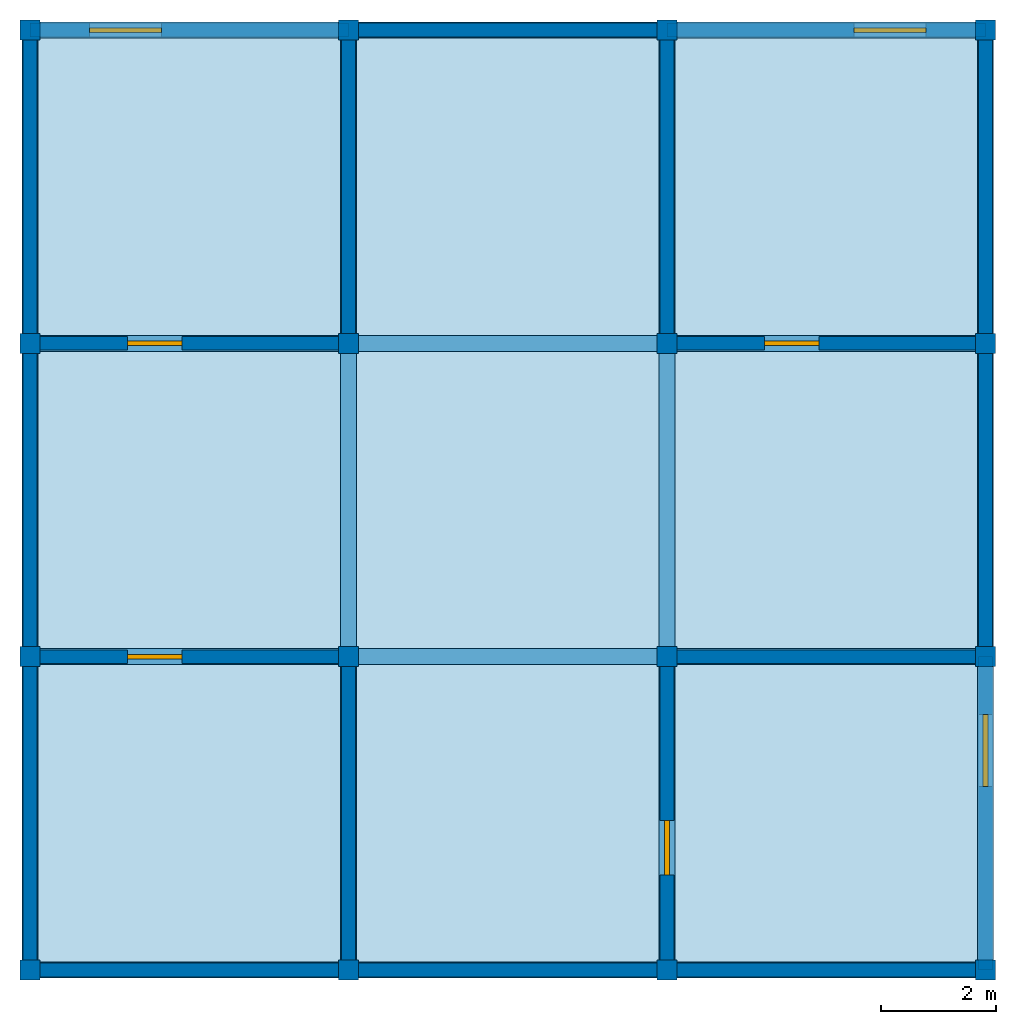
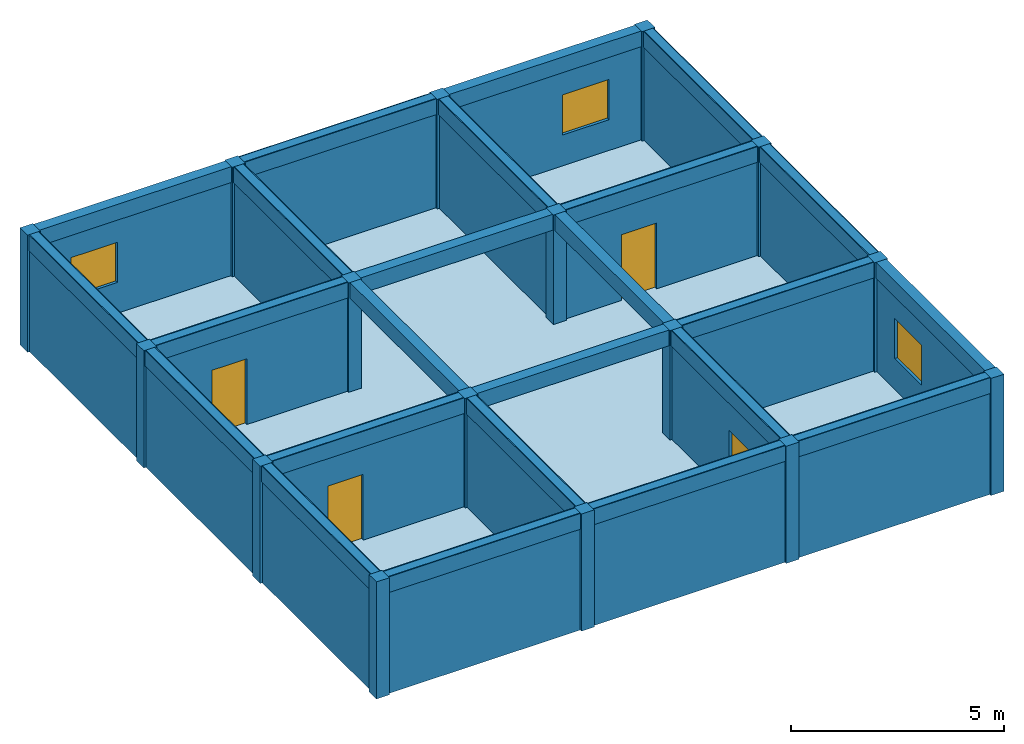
# One storey: 24 beams, 20 walls, 16 columns, 4 doors, 3 windows, 1 slab, 7 openings.
"""IFC4X3 building model written with IfcOpenShell, lengths in metres."""

from ifc_helpers import new_model, si_unit, frame, origin_with_axes, origin_2d, place, context, project, spatial, rectangle, extrude, material, element, fill, save


model = new_model("IFC4X3")

# Units and contexts
model_context = context("Model", 3, precision=1e-05, world=origin_with_axes())
ifc_project = project(units=[si_unit("LENGTHUNIT", "METRE"), si_unit("AREAUNIT", "SQUARE_METRE"), si_unit("VOLUMEUNIT", "CUBIC_METRE")], contexts=[model_context])

# Site, building, storey
site = spatial("IfcSite", under=ifc_project, Name="La Serena Parcel", CompositionType="ELEMENT")
building = spatial("IfcBuilding", under=site, Name="Atlas Building", CompositionType="ELEMENT")
storey = spatial("IfcBuildingStorey", under=building, Name="Level 11", CompositionType="ELEMENT", Elevation=33.49)

# Columns
ifc_material_1 = material(Name="Timber")
column_1_placement = place(None, frame((-8.31, -8.175, 33.49), z_axis=(0.0, 0.0, 1.0), x_axis=(1.0, 0.0, 0.0)))
element("IfcColumn", 1, at=column_1_placement, inside=storey, material=ifc_material_1, Name="Column 11.1", ObjectType="Corner Column", PredefinedType="COLUMN", context=model_context, shape_type="SweptSolid", body=[
    extrude(rectangle(XDim=0.35, YDim=0.35, at=origin_2d()), origin_with_axes(), (0.0, 0.0, 1.0), 3.349),
])
column_2_placement = place(None, frame((-8.31, -2.725, 33.49), z_axis=(0.0, 0.0, 1.0), x_axis=(1.0, 0.0, 0.0)))
element("IfcColumn", 2, at=column_2_placement, inside=storey, material=ifc_material_1, Name="Column 11.2", ObjectType="Corner Column", PredefinedType="USERDEFINED", context=model_context, shape_type="SweptSolid", body=[
    extrude(rectangle(XDim=0.35, YDim=0.35, at=origin_2d()), origin_with_axes(), (0.0, 0.0, 1.0), 3.349),
])
column_3_placement = place(None, frame((-8.31, 2.725, 33.49), z_axis=(0.0, 0.0, 1.0), x_axis=(1.0, 0.0, 0.0)))
element("IfcColumn", 3, at=column_3_placement, inside=storey, material=ifc_material_1, Name="Column 11.3", ObjectType="Structural Column", PredefinedType="PILASTER", context=model_context, shape_type="SweptSolid", body=[
    extrude(rectangle(XDim=0.35, YDim=0.35, at=origin_2d()), origin_with_axes(), (0.0, 0.0, 1.0), 3.349),
])
for number, where, z_axis, x_axis, name in (
    (4, (-8.31, 8.175, 33.49), (0.0, 0.0, 1.0), (1.0, 0.0, 0.0), "Column 11.4"),
    (5, (-2.77, -8.175, 33.49), (0.0, 0.0, 1.0), (1.0, 0.0, 0.0), "Column 11.5"),
):
    element("IfcColumn", number, at=place(None, frame(where, z_axis=z_axis, x_axis=x_axis)), inside=storey, material=ifc_material_1, Name=name, ObjectType="Core Column", PredefinedType="USERDEFINED", context=model_context, shape_type="SweptSolid", body=[
        extrude(rectangle(XDim=0.35, YDim=0.35, at=origin_2d()), origin_with_axes(), (0.0, 0.0, 1.0), 3.349),
    ])
column_4_placement = place(None, frame((-2.77, -2.725, 33.49), z_axis=(0.0, 0.0, 1.0), x_axis=(1.0, 0.0, 0.0)))
element("IfcColumn", 6, at=column_4_placement, inside=storey, material=ifc_material_1, Name="Column 11.6", ObjectType="Corner Column", PredefinedType="USERDEFINED", context=model_context, shape_type="SweptSolid", body=[
    extrude(rectangle(XDim=0.35, YDim=0.35, at=origin_2d()), origin_with_axes(), (0.0, 0.0, 1.0), 3.349),
])
column_5_placement = place(None, frame((-2.77, 2.725, 33.49), z_axis=(0.0, 0.0, 1.0), x_axis=(1.0, 0.0, 0.0)))
element("IfcColumn", 7, at=column_5_placement, inside=storey, material=ifc_material_1, Name="Column 11.7", ObjectType="Facade Column", PredefinedType="USERDEFINED", context=model_context, shape_type="SweptSolid", body=[
    extrude(rectangle(XDim=0.35, YDim=0.35, at=origin_2d()), origin_with_axes(), (0.0, 0.0, 1.0), 3.349),
])
column_6_placement = place(None, frame((-2.77, 8.175, 33.49), z_axis=(0.0, 0.0, 1.0), x_axis=(1.0, 0.0, 0.0)))
element("IfcColumn", 8, at=column_6_placement, inside=storey, material=ifc_material_1, Name="Column 11.8", ObjectType="Corner Column", PredefinedType="PILASTER", context=model_context, shape_type="SweptSolid", body=[
    extrude(rectangle(XDim=0.35, YDim=0.35, at=origin_2d()), origin_with_axes(), (0.0, 0.0, 1.0), 3.349),
])
column_7_placement = place(None, frame((2.77, -8.175, 33.49), z_axis=(0.0, 0.0, 1.0), x_axis=(1.0, 0.0, 0.0)))
element("IfcColumn", 9, at=column_7_placement, inside=storey, material=ifc_material_1, Name="Column 11.9", ObjectType="Core Column", PredefinedType="NOTDEFINED", context=model_context, shape_type="SweptSolid", body=[
    extrude(rectangle(XDim=0.35, YDim=0.35, at=origin_2d()), origin_with_axes(), (0.0, 0.0, 1.0), 3.349),
])
column_8_placement = place(None, frame((2.77, -2.725, 33.49), z_axis=(0.0, 0.0, 1.0), x_axis=(1.0, 0.0, 0.0)))
element("IfcColumn", 10, at=column_8_placement, inside=storey, material=ifc_material_1, Name="Column 11.10", ObjectType="Structural Column", PredefinedType="USERDEFINED", context=model_context, shape_type="SweptSolid", body=[
    extrude(rectangle(XDim=0.35, YDim=0.35, at=origin_2d()), origin_with_axes(), (0.0, 0.0, 1.0), 3.349),
])
column_9_placement = place(None, frame((2.77, 2.725, 33.49), z_axis=(0.0, 0.0, 1.0), x_axis=(1.0, 0.0, 0.0)))
element("IfcColumn", 11, at=column_9_placement, inside=storey, material=ifc_material_1, Name="Column 11.11", ObjectType="Structural Column", PredefinedType="PILASTER", context=model_context, shape_type="SweptSolid", body=[
    extrude(rectangle(XDim=0.35, YDim=0.35, at=origin_2d()), origin_with_axes(), (0.0, 0.0, 1.0), 3.349),
])
column_10_placement = place(None, frame((2.77, 8.175, 33.49), z_axis=(0.0, 0.0, 1.0), x_axis=(1.0, 0.0, 0.0)))
element("IfcColumn", 12, at=column_10_placement, inside=storey, material=ifc_material_1, Name="Column 11.12", ObjectType="Corner Column", PredefinedType="COLUMN", context=model_context, shape_type="SweptSolid", body=[
    extrude(rectangle(XDim=0.35, YDim=0.35, at=origin_2d()), origin_with_axes(), (0.0, 0.0, 1.0), 3.349),
])
column_11_placement = place(None, frame((8.31, -8.175, 33.49), z_axis=(0.0, 0.0, 1.0), x_axis=(1.0, 0.0, 0.0)))
element("IfcColumn", 13, at=column_11_placement, inside=storey, material=ifc_material_1, Name="Column 11.13", ObjectType="Facade Column", PredefinedType="USERDEFINED", context=model_context, shape_type="SweptSolid", body=[
    extrude(rectangle(XDim=0.35, YDim=0.35, at=origin_2d()), origin_with_axes(), (0.0, 0.0, 1.0), 3.349),
])
column_12_placement = place(None, frame((8.31, -2.725, 33.49), z_axis=(0.0, 0.0, 1.0), x_axis=(1.0, 0.0, 0.0)))
element("IfcColumn", 14, at=column_12_placement, inside=storey, material=ifc_material_1, Name="Column 11.14", ObjectType="Structural Column", PredefinedType="NOTDEFINED", context=model_context, shape_type="SweptSolid", body=[
    extrude(rectangle(XDim=0.35, YDim=0.35, at=origin_2d()), origin_with_axes(), (0.0, 0.0, 1.0), 3.349),
])
column_13_placement = place(None, frame((8.31, 2.725, 33.49), z_axis=(0.0, 0.0, 1.0), x_axis=(1.0, 0.0, 0.0)))
element("IfcColumn", 15, at=column_13_placement, inside=storey, material=ifc_material_1, Name="Column 11.15", ObjectType="Facade Column", PredefinedType="USERDEFINED", context=model_context, shape_type="SweptSolid", body=[
    extrude(rectangle(XDim=0.35, YDim=0.35, at=origin_2d()), origin_with_axes(), (0.0, 0.0, 1.0), 3.349),
])
column_14_placement = place(None, frame((8.31, 8.175, 33.49), z_axis=(0.0, 0.0, 1.0), x_axis=(1.0, 0.0, 0.0)))
element("IfcColumn", 16, at=column_14_placement, inside=storey, material=ifc_material_1, Name="Column 11.16", ObjectType="Core Column", PredefinedType="NOTDEFINED", context=model_context, shape_type="SweptSolid", body=[
    extrude(rectangle(XDim=0.35, YDim=0.35, at=origin_2d()), origin_with_axes(), (0.0, 0.0, 1.0), 3.349),
])

# Beams
ifc_material_2 = material(Name="Concrete")
beam_1_placement = place(None, frame((-5.54, -8.175, 36.389), z_axis=(0.0, 0.0, 1.0), x_axis=(1.0, 0.0, 0.0)))
element("IfcBeam", 17, at=beam_1_placement, inside=storey, material=ifc_material_2, Name="Beam 11.1", ObjectType="Transfer Beam", PredefinedType="JOIST", context=model_context, shape_type="SweptSolid", body=[
    extrude(rectangle(XDim=5.54, YDim=0.28, at=origin_2d()), origin_with_axes(), (0.0, 0.0, 1.0), 0.45),
])
beam_2_placement = place(None, frame((0.0, -8.175, 36.389), z_axis=(0.0, 0.0, 1.0), x_axis=(1.0, 0.0, 0.0)))
element("IfcBeam", 18, at=beam_2_placement, inside=storey, material=ifc_material_2, Name="Beam 11.2", ObjectType="Primary Beam", PredefinedType="JOIST", context=model_context, shape_type="SweptSolid", body=[
    extrude(rectangle(XDim=5.54, YDim=0.28, at=origin_2d()), origin_with_axes(), (0.0, 0.0, 1.0), 0.45),
])
beam_3_placement = place(None, frame((5.54, -8.175, 36.389), z_axis=(0.0, 0.0, 1.0), x_axis=(1.0, 0.0, 0.0)))
element("IfcBeam", 19, at=beam_3_placement, inside=storey, material=ifc_material_2, Name="Beam 11.3", ObjectType="Secondary Beam", PredefinedType="LINTEL", context=model_context, shape_type="SweptSolid", body=[
    extrude(rectangle(XDim=5.54, YDim=0.28, at=origin_2d()), origin_with_axes(), (0.0, 0.0, 1.0), 0.45),
])
beam_4_placement = place(None, frame((-5.54, -2.725, 36.389), z_axis=(0.0, 0.0, 1.0), x_axis=(1.0, 0.0, 0.0)))
element("IfcBeam", 20, at=beam_4_placement, inside=storey, material=ifc_material_2, Name="Beam 11.4", ObjectType="Primary Beam", PredefinedType="NOTDEFINED", context=model_context, shape_type="SweptSolid", body=[
    extrude(rectangle(XDim=5.54, YDim=0.28, at=origin_2d()), origin_with_axes(), (0.0, 0.0, 1.0), 0.45),
])
beam_5_placement = place(None, frame((0.0, -2.725, 36.389), z_axis=(0.0, 0.0, 1.0), x_axis=(1.0, 0.0, 0.0)))
element("IfcBeam", 21, at=beam_5_placement, inside=storey, material=ifc_material_2, Name="Beam 11.5", ObjectType="Secondary Beam", PredefinedType="USERDEFINED", context=model_context, shape_type="SweptSolid", body=[
    extrude(rectangle(XDim=5.54, YDim=0.28, at=origin_2d()), origin_with_axes(), (0.0, 0.0, 1.0), 0.45),
])
beam_6_placement = place(None, frame((5.54, -2.725, 36.389), z_axis=(0.0, 0.0, 1.0), x_axis=(1.0, 0.0, 0.0)))
element("IfcBeam", 22, at=beam_6_placement, inside=storey, material=ifc_material_2, Name="Beam 11.6", ObjectType="Ridge Beam", PredefinedType="T_BEAM", context=model_context, shape_type="SweptSolid", body=[
    extrude(rectangle(XDim=5.54, YDim=0.28, at=origin_2d()), origin_with_axes(), (0.0, 0.0, 1.0), 0.45),
])
beam_7_placement = place(None, frame((-5.54, 2.725, 36.389), z_axis=(0.0, 0.0, 1.0), x_axis=(1.0, 0.0, 0.0)))
element("IfcBeam", 23, at=beam_7_placement, inside=storey, material=ifc_material_2, Name="Beam 11.7", ObjectType="Secondary Beam", PredefinedType="NOTDEFINED", context=model_context, shape_type="SweptSolid", body=[
    extrude(rectangle(XDim=5.54, YDim=0.28, at=origin_2d()), origin_with_axes(), (0.0, 0.0, 1.0), 0.45),
])
for number, where, z_axis, x_axis, name in (
    (24, (0.0, 2.725, 36.389), (0.0, 0.0, 1.0), (1.0, 0.0, 0.0), "Beam 11.8"),
    (25, (5.54, 2.725, 36.389), (0.0, 0.0, 1.0), (1.0, 0.0, 0.0), "Beam 11.9"),
):
    element("IfcBeam", number, at=place(None, frame(where, z_axis=z_axis, x_axis=x_axis)), inside=storey, material=ifc_material_2, Name=name, ObjectType="Ridge Beam", PredefinedType="HOLLOWCORE", context=model_context, shape_type="SweptSolid", body=[
        extrude(rectangle(XDim=5.54, YDim=0.28, at=origin_2d()), origin_with_axes(), (0.0, 0.0, 1.0), 0.45),
    ])
beam_8_placement = place(None, frame((-5.54, 8.175, 36.389), z_axis=(0.0, 0.0, 1.0), x_axis=(1.0, 0.0, 0.0)))
element("IfcBeam", 26, at=beam_8_placement, inside=storey, material=ifc_material_2, Name="Beam 11.10", ObjectType="Primary Beam", PredefinedType="BEAM", context=model_context, shape_type="SweptSolid", body=[
    extrude(rectangle(XDim=5.54, YDim=0.28, at=origin_2d()), origin_with_axes(), (0.0, 0.0, 1.0), 0.45),
])
beam_9_placement = place(None, frame((0.0, 8.175, 36.389), z_axis=(0.0, 0.0, 1.0), x_axis=(1.0, 0.0, 0.0)))
element("IfcBeam", 27, at=beam_9_placement, inside=storey, material=ifc_material_2, Name="Beam 11.11", ObjectType="Transfer Beam", PredefinedType="LINTEL", context=model_context, shape_type="SweptSolid", body=[
    extrude(rectangle(XDim=5.54, YDim=0.28, at=origin_2d()), origin_with_axes(), (0.0, 0.0, 1.0), 0.45),
])
beam_10_placement = place(None, frame((5.54, 8.175, 36.389), z_axis=(0.0, 0.0, 1.0), x_axis=(1.0, 0.0, 0.0)))
element("IfcBeam", 28, at=beam_10_placement, inside=storey, material=ifc_material_2, Name="Beam 11.12", ObjectType="Primary Beam", PredefinedType="BEAM", context=model_context, shape_type="SweptSolid", body=[
    extrude(rectangle(XDim=5.54, YDim=0.28, at=origin_2d()), origin_with_axes(), (0.0, 0.0, 1.0), 0.45),
])
beam_11_placement = place(None, frame((-8.31, -5.45, 36.389), z_axis=(0.0, 0.0, 1.0), x_axis=(0.0, 1.0, 0.0)))
element("IfcBeam", 29, at=beam_11_placement, inside=storey, material=ifc_material_2, Name="Beam 11.13", ObjectType="Secondary Beam", PredefinedType="NOTDEFINED", context=model_context, shape_type="SweptSolid", body=[
    extrude(rectangle(XDim=5.45, YDim=0.28, at=origin_2d()), origin_with_axes(), (0.0, 0.0, 1.0), 0.45),
])
beam_12_placement = place(None, frame((-8.31, 0.0, 36.389), z_axis=(0.0, 0.0, 1.0), x_axis=(0.0, 1.0, 0.0)))
element("IfcBeam", 30, at=beam_12_placement, inside=storey, material=ifc_material_2, Name="Beam 11.14", ObjectType="Primary Beam", PredefinedType="HOLLOWCORE", context=model_context, shape_type="SweptSolid", body=[
    extrude(rectangle(XDim=5.45, YDim=0.28, at=origin_2d()), origin_with_axes(), (0.0, 0.0, 1.0), 0.45),
])
beam_13_placement = place(None, frame((-8.31, 5.45, 36.389), z_axis=(0.0, 0.0, 1.0), x_axis=(0.0, 1.0, 0.0)))
element("IfcBeam", 31, at=beam_13_placement, inside=storey, material=ifc_material_2, Name="Beam 11.15", ObjectType="Secondary Beam", PredefinedType="JOIST", context=model_context, shape_type="SweptSolid", body=[
    extrude(rectangle(XDim=5.45, YDim=0.28, at=origin_2d()), origin_with_axes(), (0.0, 0.0, 1.0), 0.45),
])
beam_14_placement = place(None, frame((-2.77, -5.45, 36.389), z_axis=(0.0, 0.0, 1.0), x_axis=(0.0, 1.0, 0.0)))
element("IfcBeam", 32, at=beam_14_placement, inside=storey, material=ifc_material_2, Name="Beam 11.16", ObjectType="Ridge Beam", PredefinedType="USERDEFINED", context=model_context, shape_type="SweptSolid", body=[
    extrude(rectangle(XDim=5.45, YDim=0.28, at=origin_2d()), origin_with_axes(), (0.0, 0.0, 1.0), 0.45),
])
beam_15_placement = place(None, frame((-2.77, 0.0, 36.389), z_axis=(0.0, 0.0, 1.0), x_axis=(0.0, 1.0, 0.0)))
element("IfcBeam", 33, at=beam_15_placement, inside=storey, material=ifc_material_2, Name="Beam 11.17", ObjectType="Rafter Beam", PredefinedType="SPANDREL", context=model_context, shape_type="SweptSolid", body=[
    extrude(rectangle(XDim=5.45, YDim=0.28, at=origin_2d()), origin_with_axes(), (0.0, 0.0, 1.0), 0.45),
])
beam_16_placement = place(None, frame((-2.77, 5.45, 36.389), z_axis=(0.0, 0.0, 1.0), x_axis=(0.0, 1.0, 0.0)))
element("IfcBeam", 34, at=beam_16_placement, inside=storey, material=ifc_material_2, Name="Beam 11.18", ObjectType="Transfer Beam", PredefinedType="T_BEAM", context=model_context, shape_type="SweptSolid", body=[
    extrude(rectangle(XDim=5.45, YDim=0.28, at=origin_2d()), origin_with_axes(), (0.0, 0.0, 1.0), 0.45),
])
beam_17_placement = place(None, frame((2.77, -5.45, 36.389), z_axis=(0.0, 0.0, 1.0), x_axis=(0.0, 1.0, 0.0)))
element("IfcBeam", 35, at=beam_17_placement, inside=storey, material=ifc_material_2, Name="Beam 11.19", ObjectType="Primary Beam", PredefinedType="SPANDREL", context=model_context, shape_type="SweptSolid", body=[
    extrude(rectangle(XDim=5.45, YDim=0.28, at=origin_2d()), origin_with_axes(), (0.0, 0.0, 1.0), 0.45),
])
beam_18_placement = place(None, frame((2.77, 0.0, 36.389), z_axis=(0.0, 0.0, 1.0), x_axis=(0.0, 1.0, 0.0)))
element("IfcBeam", 36, at=beam_18_placement, inside=storey, material=ifc_material_2, Name="Beam 11.20", ObjectType="Ridge Beam", PredefinedType="NOTDEFINED", context=model_context, shape_type="SweptSolid", body=[
    extrude(rectangle(XDim=5.45, YDim=0.28, at=origin_2d()), origin_with_axes(), (0.0, 0.0, 1.0), 0.45),
])
beam_19_placement = place(None, frame((2.77, 5.45, 36.389), z_axis=(0.0, 0.0, 1.0), x_axis=(0.0, 1.0, 0.0)))
element("IfcBeam", 37, at=beam_19_placement, inside=storey, material=ifc_material_2, Name="Beam 11.21", ObjectType="Transfer Beam", PredefinedType="T_BEAM", context=model_context, shape_type="SweptSolid", body=[
    extrude(rectangle(XDim=5.45, YDim=0.28, at=origin_2d()), origin_with_axes(), (0.0, 0.0, 1.0), 0.45),
])
beam_20_placement = place(None, frame((8.31, -5.45, 36.389), z_axis=(0.0, 0.0, 1.0), x_axis=(0.0, 1.0, 0.0)))
element("IfcBeam", 38, at=beam_20_placement, inside=storey, material=ifc_material_2, Name="Beam 11.22", ObjectType="Rafter Beam", PredefinedType="HOLLOWCORE", context=model_context, shape_type="SweptSolid", body=[
    extrude(rectangle(XDim=5.45, YDim=0.28, at=origin_2d()), origin_with_axes(), (0.0, 0.0, 1.0), 0.45),
])
beam_21_placement = place(None, frame((8.31, 0.0, 36.389), z_axis=(0.0, 0.0, 1.0), x_axis=(0.0, 1.0, 0.0)))
element("IfcBeam", 39, at=beam_21_placement, inside=storey, material=ifc_material_2, Name="Beam 11.23", ObjectType="Primary Beam", PredefinedType="LINTEL", context=model_context, shape_type="SweptSolid", body=[
    extrude(rectangle(XDim=5.45, YDim=0.28, at=origin_2d()), origin_with_axes(), (0.0, 0.0, 1.0), 0.45),
])
beam_22_placement = place(None, frame((8.31, 5.45, 36.389), z_axis=(0.0, 0.0, 1.0), x_axis=(0.0, 1.0, 0.0)))
element("IfcBeam", 40, at=beam_22_placement, inside=storey, material=ifc_material_2, Name="Beam 11.24", ObjectType="Rafter Beam", PredefinedType="USERDEFINED", context=model_context, shape_type="SweptSolid", body=[
    extrude(rectangle(XDim=5.45, YDim=0.28, at=origin_2d()), origin_with_axes(), (0.0, 0.0, 1.0), 0.45),
])

# Slab
slab_placement = place(None, frame((0.0, 0.0, 33.49), z_axis=(0.0, 0.0, 1.0), x_axis=(1.0, 0.0, 0.0)))
element("IfcSlab", 41, at=slab_placement, inside=storey, material=ifc_material_2, Name="Slab 11", ObjectType="Floor Slab", PredefinedType="FLOOR", context=model_context, shape_type="SweptSolid", body=[
    extrude(rectangle(XDim=16.62, YDim=16.35, at=origin_2d()), origin_with_axes(), (0.0, 0.0, 1.0), 0.22),
])

# Wall, opening, door
wall_1_placement = place(None, frame((-5.54, -2.725, 33.49), z_axis=(0.0, 0.0, 1.0), x_axis=(1.0, 0.0, 0.0)))
wall_1 = element("IfcWall", 42, at=wall_1_placement, inside=storey, material=ifc_material_2, Name="Wall 11.1", ObjectType="Corridor Partition", PredefinedType="STANDARD", context=model_context, shape_type="SweptSolid", body=[
    extrude(rectangle(XDim=5.54, YDim=0.237348, at=origin_2d()), origin_with_axes(), (0.0, 0.0, 1.0), 3.349),
])
opening_1_placement = place(None, frame((-6.14, -2.725, 33.49), z_axis=(0.0, 0.0, 1.0), x_axis=(1.0, 0.0, 0.0)))
opening_1 = element("IfcOpeningElement", 43, at=opening_1_placement, cuts=wall_1, Name="Door opening 11.1", ObjectType="Door Opening", PredefinedType="OPENING", context=model_context, shape_type="SweptSolid", body=[
    extrude(rectangle(XDim=0.95, YDim=0.317348, at=origin_2d()), origin_with_axes(), (0.0, 0.0, 1.0), 2.1),
])
door_1_placement = place(None, frame((-6.14, -2.725, 33.49), z_axis=(0.0, 0.0, 1.0), x_axis=(1.0, 0.0, 0.0)))
door_1 = element("IfcDoor", 44, at=door_1_placement, inside=storey, Name="Door 11.1", ObjectType="Fire Door", OverallHeight=2.1, OverallWidth=0.95, context=model_context, shape_type="SweptSolid", body=[
    extrude(rectangle(XDim=0.95, YDim=0.08, at=origin_2d()), origin_with_axes(), (0.0, 0.0, 1.0), 2.1),
])
fill(opening_1, door_1)

# Walls
ifc_material_3 = material(Name="Gypsum")
wall_2_placement = place(None, frame((-2.77, -5.45, 33.49), z_axis=(0.0, 0.0, 1.0), x_axis=(0.0, 1.0, 0.0)))
element("IfcWall", 45, at=wall_2_placement, inside=storey, material=ifc_material_3, Name="Wall 11.2", ObjectType="Corridor Partition", PredefinedType="MOVABLE", context=model_context, shape_type="SweptSolid", body=[
    extrude(rectangle(XDim=5.45, YDim=0.237348, at=origin_2d()), origin_with_axes(), (0.0, 0.0, 1.0), 3.349),
])
ifc_material_4 = material(Name="CLT")
wall_3_placement = place(None, frame((-5.54, -8.175, 33.49), z_axis=(0.0, 0.0, 1.0), x_axis=(1.0, 0.0, 0.0)))
element("IfcWall", 46, at=wall_3_placement, inside=storey, material=ifc_material_4, Name="Wall 11.3", ObjectType="Exterior Wall", PredefinedType="ELEMENTEDWALL", context=model_context, shape_type="SweptSolid", body=[
    extrude(rectangle(XDim=5.54, YDim=0.237348, at=origin_2d()), origin_with_axes(), (0.0, 0.0, 1.0), 3.349),
])
wall_4_placement = place(None, frame((-8.31, -5.45, 33.49), z_axis=(0.0, 0.0, 1.0), x_axis=(0.0, 1.0, 0.0)))
element("IfcWall", 47, at=wall_4_placement, inside=storey, material=ifc_material_3, Name="Wall 11.4", ObjectType="Exterior Wall", PredefinedType="USERDEFINED", context=model_context, shape_type="SweptSolid", body=[
    extrude(rectangle(XDim=5.45, YDim=0.237348, at=origin_2d()), origin_with_axes(), (0.0, 0.0, 1.0), 3.349),
])

# Wall, opening, door
wall_5_placement = place(None, frame((2.77, -5.45, 33.49), z_axis=(0.0, 0.0, 1.0), x_axis=(0.0, 1.0, 0.0)))
wall_5 = element("IfcWall", 48, at=wall_5_placement, inside=storey, material=ifc_material_4, Name="Wall 11.5", ObjectType="Corridor Partition", PredefinedType="PLUMBINGWALL", context=model_context, shape_type="SweptSolid", body=[
    extrude(rectangle(XDim=5.45, YDim=0.237348, at=origin_2d()), origin_with_axes(), (0.0, 0.0, 1.0), 3.349),
])
opening_2_placement = place(None, frame((2.77, -6.05, 33.49), z_axis=(0.0, 0.0, 1.0), x_axis=(0.0, 1.0, 0.0)))
opening_2 = element("IfcOpeningElement", 49, at=opening_2_placement, cuts=wall_5, Name="Door opening 11.2", ObjectType="Door Opening", PredefinedType="OPENING", context=model_context, shape_type="SweptSolid", body=[
    extrude(rectangle(XDim=0.95, YDim=0.317348, at=origin_2d()), origin_with_axes(), (0.0, 0.0, 1.0), 2.1),
])
door_2_placement = place(None, frame((2.77, -6.05, 33.49), z_axis=(0.0, 0.0, 1.0), x_axis=(0.0, 1.0, 0.0)))
door_2 = element("IfcDoor", 50, at=door_2_placement, inside=storey, Name="Door 11.2", ObjectType="Entry Door", OverallHeight=2.1, OverallWidth=0.95, context=model_context, shape_type="SweptSolid", body=[
    extrude(rectangle(XDim=0.95, YDim=0.08, at=origin_2d()), origin_with_axes(), (0.0, 0.0, 1.0), 2.1),
])
fill(opening_2, door_2)

# Walls
wall_6_placement = place(None, frame((0.0, -8.175, 33.49), z_axis=(0.0, 0.0, 1.0), x_axis=(1.0, 0.0, 0.0)))
element("IfcWall", 51, at=wall_6_placement, inside=storey, material=ifc_material_3, Name="Wall 11.6", ObjectType="Exterior Wall", PredefinedType="PARAPET", context=model_context, shape_type="SweptSolid", body=[
    extrude(rectangle(XDim=5.54, YDim=0.237348, at=origin_2d()), origin_with_axes(), (0.0, 0.0, 1.0), 3.349),
])
ifc_material_5 = material(Name="Brick")
wall_7_placement = place(None, frame((5.54, -2.725, 33.49), z_axis=(0.0, 0.0, 1.0), x_axis=(1.0, 0.0, 0.0)))
element("IfcWall", 52, at=wall_7_placement, inside=storey, material=ifc_material_5, Name="Wall 11.7", ObjectType="Corridor Partition", PredefinedType="STANDARD", context=model_context, shape_type="SweptSolid", body=[
    extrude(rectangle(XDim=5.54, YDim=0.237348, at=origin_2d()), origin_with_axes(), (0.0, 0.0, 1.0), 3.349),
])

# Wall, opening, window
wall_8_placement = place(None, frame((8.31, -5.45, 33.49), z_axis=(0.0, 0.0, 1.0), x_axis=(0.0, 1.0, 0.0)))
wall_8 = element("IfcWall", 53, at=wall_8_placement, inside=storey, material=ifc_material_2, Name="Wall 11.8", ObjectType="Exterior Wall", PredefinedType="ELEMENTEDWALL", context=model_context, shape_type="SweptSolid", body=[
    extrude(rectangle(XDim=5.45, YDim=0.237348, at=origin_2d()), origin_with_axes(), (0.0, 0.0, 1.0), 3.349),
])
opening_3_placement = place(None, frame((8.31, -4.36, 34.59), z_axis=(0.0, 0.0, 1.0), x_axis=(0.0, 1.0, 0.0)))
opening_3 = element("IfcOpeningElement", 54, at=opening_3_placement, cuts=wall_8, Name="Window opening 11.3", ObjectType="Window Opening", PredefinedType="OPENING", context=model_context, shape_type="SweptSolid", body=[
    extrude(rectangle(XDim=1.25, YDim=0.317348, at=origin_2d()), origin_with_axes(), (0.0, 0.0, 1.0), 1.15),
])
window_1_placement = place(None, frame((8.31, -4.36, 34.59), z_axis=(0.0, 0.0, 1.0), x_axis=(0.0, 1.0, 0.0)))
window_1 = element("IfcWindow", 55, at=window_1_placement, inside=storey, Name="Window 11.3", ObjectType="Operable Window", OverallHeight=1.15, OverallWidth=1.25, context=model_context, shape_type="SweptSolid", body=[
    extrude(rectangle(XDim=1.25, YDim=0.08, at=origin_2d()), origin_with_axes(), (0.0, 0.0, 1.0), 1.15),
])
fill(opening_3, window_1)

# Wall
wall_9_placement = place(None, frame((5.54, -8.175, 33.49), z_axis=(0.0, 0.0, 1.0), x_axis=(1.0, 0.0, 0.0)))
element("IfcWall", 56, at=wall_9_placement, inside=storey, material=ifc_material_5, Name="Wall 11.9", ObjectType="Exterior Wall", PredefinedType="MOVABLE", context=model_context, shape_type="SweptSolid", body=[
    extrude(rectangle(XDim=5.54, YDim=0.237348, at=origin_2d()), origin_with_axes(), (0.0, 0.0, 1.0), 3.349),
])

# Wall, opening, door
wall_10_placement = place(None, frame((-5.54, 2.725, 33.49), z_axis=(0.0, 0.0, 1.0), x_axis=(1.0, 0.0, 0.0)))
wall_10 = element("IfcWall", 57, at=wall_10_placement, inside=storey, material=ifc_material_4, Name="Wall 11.10", ObjectType="Corridor Partition", PredefinedType="PLUMBINGWALL", context=model_context, shape_type="SweptSolid", body=[
    extrude(rectangle(XDim=5.54, YDim=0.237348, at=origin_2d()), origin_with_axes(), (0.0, 0.0, 1.0), 3.349),
])
opening_4_placement = place(None, frame((-6.14, 2.725, 33.49), z_axis=(0.0, 0.0, 1.0), x_axis=(1.0, 0.0, 0.0)))
opening_4 = element("IfcOpeningElement", 58, at=opening_4_placement, cuts=wall_10, Name="Door opening 11.4", ObjectType="Door Opening", PredefinedType="OPENING", context=model_context, shape_type="SweptSolid", body=[
    extrude(rectangle(XDim=0.95, YDim=0.317348, at=origin_2d()), origin_with_axes(), (0.0, 0.0, 1.0), 2.1),
])
door_3_placement = place(None, frame((-6.14, 2.725, 33.49), z_axis=(0.0, 0.0, 1.0), x_axis=(1.0, 0.0, 0.0)))
door_3 = element("IfcDoor", 59, at=door_3_placement, inside=storey, Name="Door 11.4", ObjectType="Fire Door", OverallHeight=2.1, OverallWidth=0.95, context=model_context, shape_type="SweptSolid", body=[
    extrude(rectangle(XDim=0.95, YDim=0.08, at=origin_2d()), origin_with_axes(), (0.0, 0.0, 1.0), 2.1),
])
fill(opening_4, door_3)

# Wall
wall_11_placement = place(None, frame((-8.31, 0.0, 33.49), z_axis=(0.0, 0.0, 1.0), x_axis=(0.0, 1.0, 0.0)))
element("IfcWall", 60, at=wall_11_placement, inside=storey, material=ifc_material_3, Name="Wall 11.11", ObjectType="Exterior Wall", PredefinedType="SOLIDWALL", context=model_context, shape_type="SweptSolid", body=[
    extrude(rectangle(XDim=5.45, YDim=0.237348, at=origin_2d()), origin_with_axes(), (0.0, 0.0, 1.0), 3.349),
])

# Wall, opening, door
wall_12_placement = place(None, frame((5.54, 2.725, 33.49), z_axis=(0.0, 0.0, 1.0), x_axis=(1.0, 0.0, 0.0)))
wall_12 = element("IfcWall", 61, at=wall_12_placement, inside=storey, material=ifc_material_5, Name="Wall 11.12", ObjectType="Corridor Partition", PredefinedType="STANDARD", context=model_context, shape_type="SweptSolid", body=[
    extrude(rectangle(XDim=5.54, YDim=0.237348, at=origin_2d()), origin_with_axes(), (0.0, 0.0, 1.0), 3.349),
])
opening_5_placement = place(None, frame((4.94, 2.725, 33.49), z_axis=(0.0, 0.0, 1.0), x_axis=(1.0, 0.0, 0.0)))
opening_5 = element("IfcOpeningElement", 62, at=opening_5_placement, cuts=wall_12, Name="Door opening 11.6", ObjectType="Door Opening", PredefinedType="OPENING", context=model_context, shape_type="SweptSolid", body=[
    extrude(rectangle(XDim=0.95, YDim=0.317348, at=origin_2d()), origin_with_axes(), (0.0, 0.0, 1.0), 2.1),
])
door_4_placement = place(None, frame((4.94, 2.725, 33.49), z_axis=(0.0, 0.0, 1.0), x_axis=(1.0, 0.0, 0.0)))
door_4 = element("IfcDoor", 63, at=door_4_placement, inside=storey, Name="Door 11.6", ObjectType="Entry Door", OverallHeight=2.1, OverallWidth=0.95, context=model_context, shape_type="SweptSolid", body=[
    extrude(rectangle(XDim=0.95, YDim=0.08, at=origin_2d()), origin_with_axes(), (0.0, 0.0, 1.0), 2.1),
])
fill(opening_5, door_4)

# Wall
wall_13_placement = place(None, frame((8.31, 0.0, 33.49), z_axis=(0.0, 0.0, 1.0), x_axis=(0.0, 1.0, 0.0)))
element("IfcWall", 64, at=wall_13_placement, inside=storey, material=ifc_material_5, Name="Wall 11.13", ObjectType="Exterior Wall", PredefinedType="STANDARD", context=model_context, shape_type="SweptSolid", body=[
    extrude(rectangle(XDim=5.45, YDim=0.237348, at=origin_2d()), origin_with_axes(), (0.0, 0.0, 1.0), 3.349),
])

# Wall, opening, window
wall_14_placement = place(None, frame((-5.54, 8.175, 33.49), z_axis=(0.0, 0.0, 1.0), x_axis=(1.0, 0.0, 0.0)))
wall_14 = element("IfcWall", 65, at=wall_14_placement, inside=storey, material=ifc_material_4, Name="Wall 11.14", ObjectType="Exterior Wall", PredefinedType="ELEMENTEDWALL", context=model_context, shape_type="SweptSolid", body=[
    extrude(rectangle(XDim=5.54, YDim=0.237348, at=origin_2d()), origin_with_axes(), (0.0, 0.0, 1.0), 3.349),
])
opening_6_placement = place(None, frame((-6.648, 8.175, 34.59), z_axis=(0.0, 0.0, 1.0), x_axis=(1.0, 0.0, 0.0)))
opening_6 = element("IfcOpeningElement", 66, at=opening_6_placement, cuts=wall_14, Name="Window opening 11.5", ObjectType="Window Opening", PredefinedType="OPENING", context=model_context, shape_type="SweptSolid", body=[
    extrude(rectangle(XDim=1.25, YDim=0.317348, at=origin_2d()), origin_with_axes(), (0.0, 0.0, 1.0), 1.15),
])
window_2_placement = place(None, frame((-6.648, 8.175, 34.59), z_axis=(0.0, 0.0, 1.0), x_axis=(1.0, 0.0, 0.0)))
window_2 = element("IfcWindow", 67, at=window_2_placement, inside=storey, Name="Window 11.5", ObjectType="Operable Window", OverallHeight=1.15, OverallWidth=1.25, context=model_context, shape_type="SweptSolid", body=[
    extrude(rectangle(XDim=1.25, YDim=0.08, at=origin_2d()), origin_with_axes(), (0.0, 0.0, 1.0), 1.15),
])
fill(opening_6, window_2)

# Walls
wall_15_placement = place(None, frame((-2.77, 5.45, 33.49), z_axis=(0.0, 0.0, 1.0), x_axis=(0.0, 1.0, 0.0)))
element("IfcWall", 68, at=wall_15_placement, inside=storey, material=ifc_material_4, Name="Wall 11.15", ObjectType="Corridor Partition", PredefinedType="PLUMBINGWALL", context=model_context, shape_type="SweptSolid", body=[
    extrude(rectangle(XDim=5.45, YDim=0.237348, at=origin_2d()), origin_with_axes(), (0.0, 0.0, 1.0), 3.349),
])
wall_16_placement = place(None, frame((-8.31, 5.45, 33.49), z_axis=(0.0, 0.0, 1.0), x_axis=(0.0, 1.0, 0.0)))
element("IfcWall", 69, at=wall_16_placement, inside=storey, material=ifc_material_3, Name="Wall 11.16", ObjectType="Exterior Wall", PredefinedType="USERDEFINED", context=model_context, shape_type="SweptSolid", body=[
    extrude(rectangle(XDim=5.45, YDim=0.237348, at=origin_2d()), origin_with_axes(), (0.0, 0.0, 1.0), 3.349),
])
wall_17_placement = place(None, frame((0.0, 8.175, 33.49), z_axis=(0.0, 0.0, 1.0), x_axis=(1.0, 0.0, 0.0)))
element("IfcWall", 70, at=wall_17_placement, inside=storey, material=ifc_material_2, Name="Wall 11.17", ObjectType="Exterior Wall", PredefinedType="NOTDEFINED", context=model_context, shape_type="SweptSolid", body=[
    extrude(rectangle(XDim=5.54, YDim=0.237348, at=origin_2d()), origin_with_axes(), (0.0, 0.0, 1.0), 3.349),
])
wall_18_placement = place(None, frame((2.77, 5.45, 33.49), z_axis=(0.0, 0.0, 1.0), x_axis=(0.0, 1.0, 0.0)))
element("IfcWall", 71, at=wall_18_placement, inside=storey, material=ifc_material_4, Name="Wall 11.18", ObjectType="Corridor Partition", PredefinedType="USERDEFINED", context=model_context, shape_type="SweptSolid", body=[
    extrude(rectangle(XDim=5.45, YDim=0.237348, at=origin_2d()), origin_with_axes(), (0.0, 0.0, 1.0), 3.349),
])

# Wall, opening, window
wall_19_placement = place(None, frame((5.54, 8.175, 33.49), z_axis=(0.0, 0.0, 1.0), x_axis=(1.0, 0.0, 0.0)))
wall_19 = element("IfcWall", 72, at=wall_19_placement, inside=storey, material=ifc_material_4, Name="Wall 11.19", ObjectType="Exterior Wall", PredefinedType="USERDEFINED", context=model_context, shape_type="SweptSolid", body=[
    extrude(rectangle(XDim=5.54, YDim=0.237348, at=origin_2d()), origin_with_axes(), (0.0, 0.0, 1.0), 3.349),
])
opening_7_placement = place(None, frame((6.648, 8.175, 34.59), z_axis=(0.0, 0.0, 1.0), x_axis=(1.0, 0.0, 0.0)))
opening_7 = element("IfcOpeningElement", 73, at=opening_7_placement, cuts=wall_19, Name="Window opening 11.7", ObjectType="Window Opening", PredefinedType="OPENING", context=model_context, shape_type="SweptSolid", body=[
    extrude(rectangle(XDim=1.25, YDim=0.317348, at=origin_2d()), origin_with_axes(), (0.0, 0.0, 1.0), 1.15),
])
window_3_placement = place(None, frame((6.648, 8.175, 34.59), z_axis=(0.0, 0.0, 1.0), x_axis=(1.0, 0.0, 0.0)))
window_3 = element("IfcWindow", 74, at=window_3_placement, inside=storey, Name="Window 11.7", ObjectType="Sliding Window", OverallHeight=1.15, OverallWidth=1.25, context=model_context, shape_type="SweptSolid", body=[
    extrude(rectangle(XDim=1.25, YDim=0.08, at=origin_2d()), origin_with_axes(), (0.0, 0.0, 1.0), 1.15),
])
fill(opening_7, window_3)

# Wall
wall_20_placement = place(None, frame((8.31, 5.45, 33.49), z_axis=(0.0, 0.0, 1.0), x_axis=(0.0, 1.0, 0.0)))
element("IfcWall", 75, at=wall_20_placement, inside=storey, material=ifc_material_4, Name="Wall 11.20", ObjectType="Exterior Wall", PredefinedType="SHEAR", context=model_context, shape_type="SweptSolid", body=[
    extrude(rectangle(XDim=5.45, YDim=0.237348, at=origin_2d()), origin_with_axes(), (0.0, 0.0, 1.0), 3.349),
])

save(model, "model.ifc")
